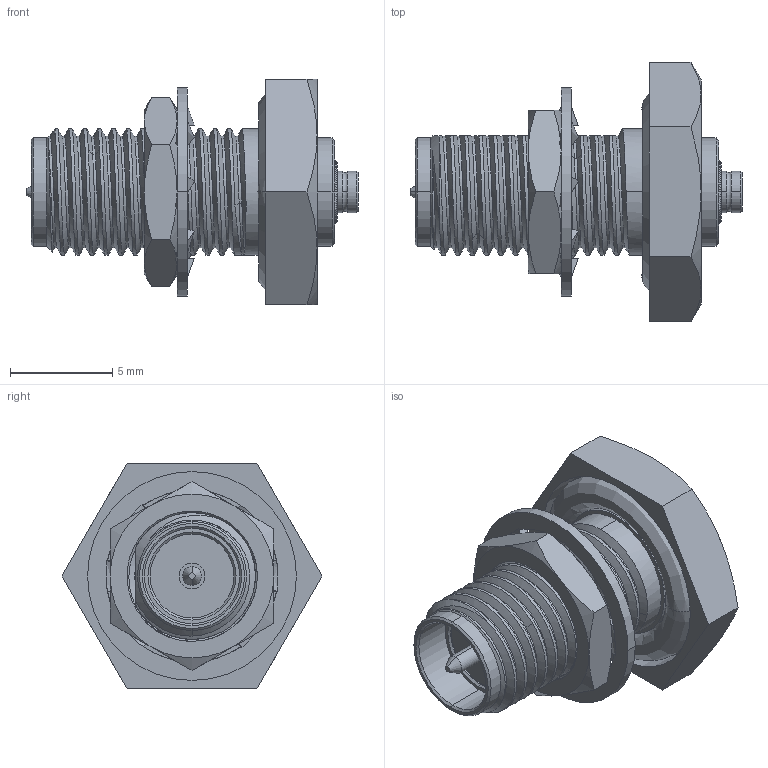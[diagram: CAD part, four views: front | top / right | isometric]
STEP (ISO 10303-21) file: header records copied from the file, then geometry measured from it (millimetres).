
FILE_DESCRIPTION((''),'2;1');
FILE_NAME('RSMAM-UFLM-3GT30G-50_SW0001','2021-01-08T17:45:52',('Kaviyarasan'),(''),'CREO PARAMETRIC BY PTC INC, 2019444','CREO PARAMETRIC BY PTC INC, 2019444','');
FILE_SCHEMA(('CONFIG_CONTROL_DESIGN'));
Length unit declared in the file: millimetre
Products named in the file (1): RSMAM-UFLM-3GT30G-50_SW0001
Bounding box: 16.22 x 12.7 x 11 mm (x, y, z)
Volume: 610.4 mm3; surface area: 983.6 mm2
Topology: 1 solids, 1 shells, 354 faces, 1053 edges, 693 vertices
Faces by surface type: plane 211, bspline 52, cylinder 49, cone 38, torus 2, sphere 2
Entity records: 22400 total; most frequent: CARTESIAN_POINT 13556, ORIENTED_EDGE 2102, DIRECTION 1481, EDGE_CURVE 1051, VERTEX_POINT 693, AXIS2_PLACEMENT_3D 509, VECTOR 463, LINE 463
